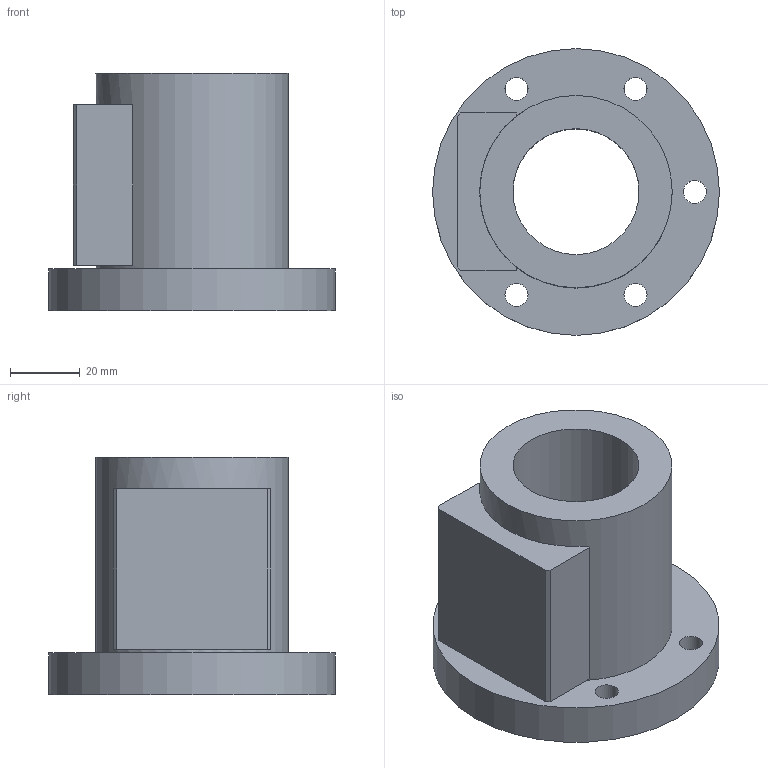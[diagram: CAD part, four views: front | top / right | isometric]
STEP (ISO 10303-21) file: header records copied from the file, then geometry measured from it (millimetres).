
FILE_DESCRIPTION(/* description */ (''),/* implementation_level */ '2;1');
FILE_NAME(/* name */ '36-6B2',/* time_stamp */ '2006-07-31T10:09:59+08:00',/* author */ (''),/* organization */ (''),/* preprocessor_version */ 'ST-DEVELOPER v9',/* originating_system */ 'UGS - NX 4.0',/* authorisation */ '');
FILE_SCHEMA (('CONFIG_CONTROL_DESIGN'));
Length unit declared in the file: millimetre
Products named in the file (1): 36-6B2
Bounding box: 82 x 82 x 68 mm (x, y, z)
Volume: 143760.6 mm3; surface area: 32604 mm2
Topology: 1 solids, 1 shells, 30 faces, 67 edges, 46 vertices
Faces by surface type: plane 17, cylinder 13
Full cylindrical faces by diameter (mm): 6.6 x5, 11 x5, 36 x1, 55 x1, 82 x1
Entity records: 860 total; most frequent: DIRECTION 140, CARTESIAN_POINT 123, ORIENTED_EDGE 100, EDGE_LOOP 62, AXIS2_PLACEMENT_3D 59, EDGE_CURVE 50, FACE_BOUND 45, VERTEX_POINT 42
